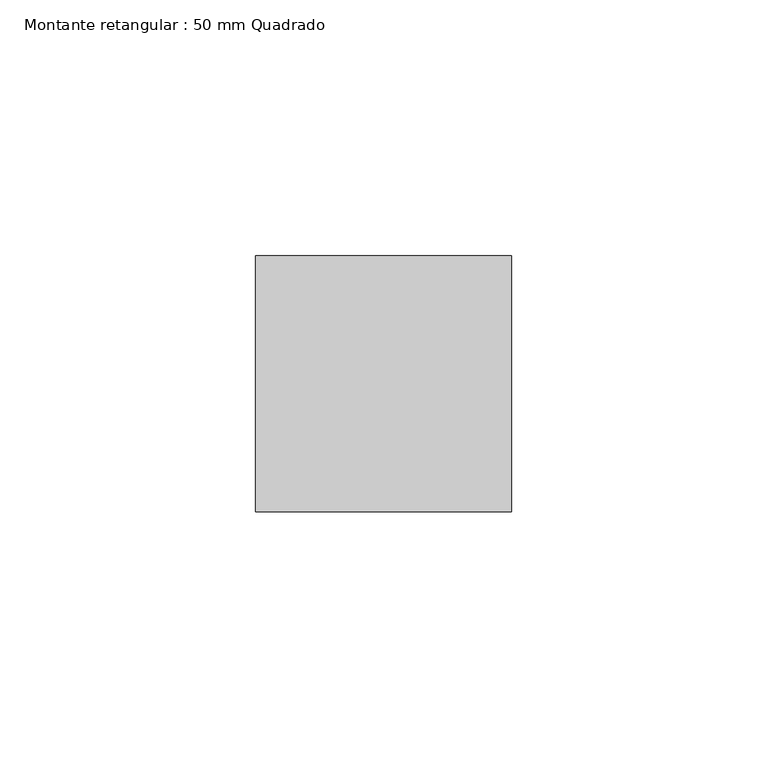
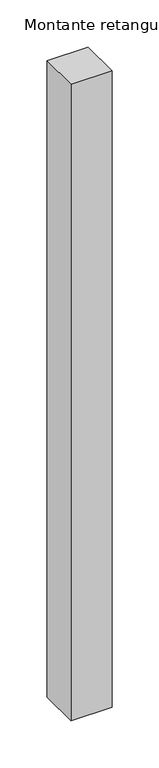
"""IFC4 building model written with IfcOpenShell, lengths in millimetres: member geometry, Montante retangular : 50 mm Quadrado."""

from ifc_helpers import new_model, si_unit, frame, origin, place, context, project, spatial, polyline, outline, extrude, source, transform, mapped, element, save


def montante_retangular_50_mm_quadrado_4acded50(model_context):
    return source(origin(), model_context, "Body", "SweptSolid", [
        extrude(outline(polyline([(0.0, 25.0), (0.0, -25.0), (-50.0, -25.0), (-50.0, 25.0), (0.0, 25.0)])), frame((0.0, 0.0, -820.0), z_axis=(0.0, 0.0, 1.0), x_axis=(1.0, 0.0, 0.0)), (0.0, 0.0, 1.0), 820.0),
    ])


if __name__ == "__main__":
    model = new_model("IFC4")
    model_context = context("Model", 3, world=origin())
    ifc_project = project(units=[si_unit("LENGTHUNIT", "METRE", prefix="MILLI")], contexts=[model_context])
    site = spatial("IfcSite", under=ifc_project)
    building = spatial("IfcBuilding", under=site)
    placement = place(None, origin())
    montante_retangular_50_mm_quadrado_shape = montante_retangular_50_mm_quadrado_4acded50(model_context)
    element("IfcMember", 1, ObjectType="Montante retangular : 50 mm Quadrado", at=placement, inside=building, context=model_context, shape_type="MappedRepresentation", body=[
        mapped(montante_retangular_50_mm_quadrado_shape, transform((0.0, 0.0, 0.0), x_axis=(1.0, 0.0, 0.0), y_axis=(0.0, 1.0, 0.0), z_axis=(0.0, 0.0, 1.0))),
    ])
    save(model, "model.ifc")
